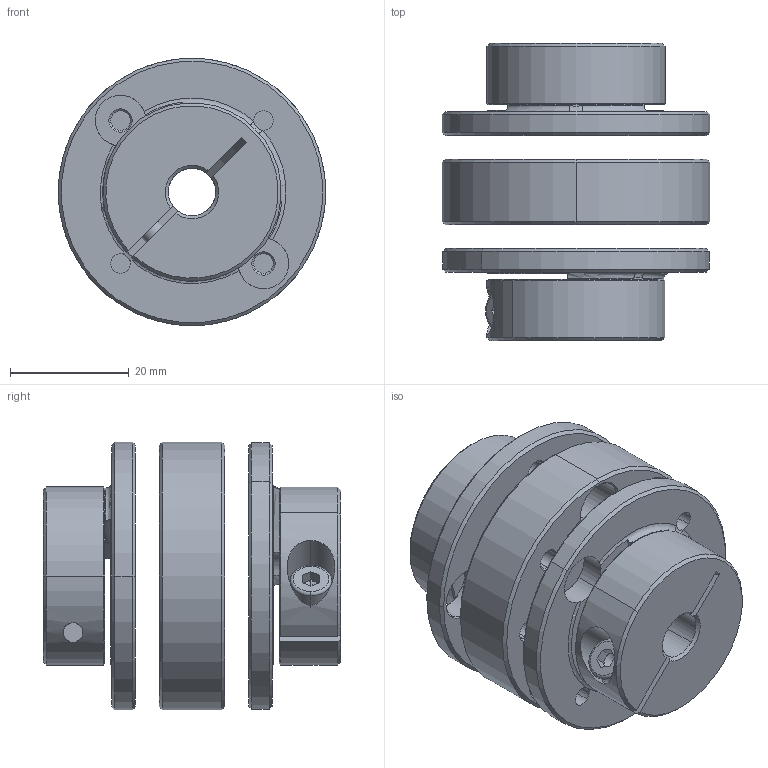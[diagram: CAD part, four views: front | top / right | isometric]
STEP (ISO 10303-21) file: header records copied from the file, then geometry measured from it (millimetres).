
FILE_DESCRIPTION (( 'STEP AP203' ), '1' );
FILE_NAME ('LE2-B-D45L50-8-8.STEP', '2021-11-01T06:19:00', ( '' ), ( '' ), 'SwSTEP 2.0', 'SolidWorks 2018', '' );
FILE_SCHEMA (( 'CONFIG_CONTROL_DESIGN' ));
Length unit declared in the file: millimetre
Products named in the file (1): LE2-B-D45L50-8-8
Bounding box: 45 x 50 x 45 mm (x, y, z)
Volume: 34608.1 mm3; surface area: 18825.9 mm2
Topology: 3 solids, 3 shells, 250 faces, 638 edges, 388 vertices
Faces by surface type: cone 90, cylinder 88, plane 60, torus 10, bspline 2
Entity records: 8091 total; most frequent: CARTESIAN_POINT 1757, DIRECTION 1414, ORIENTED_EDGE 1268, EDGE_CURVE 634, AXIS2_PLACEMENT_3D 581, VERTEX_POINT 388, CIRCLE 332, EDGE_LOOP 294
